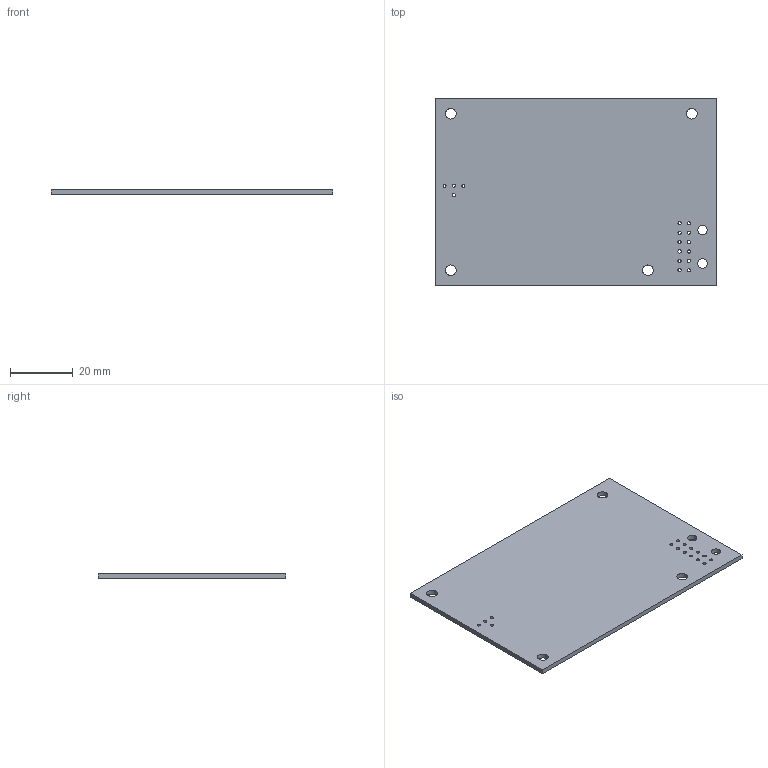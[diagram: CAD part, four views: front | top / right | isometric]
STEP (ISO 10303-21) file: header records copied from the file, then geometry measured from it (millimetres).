
FILE_DESCRIPTION(('KiCad electronic assembly'),'2;1');
FILE_NAME('PCB-PWR_board.step','2026-10-16T00:52:43',('Pcbnew'),('Kicad' ),'Open CASCADE STEP processor 7.9','KiCad to STEP converter', 'Unknown');
FILE_SCHEMA(('AUTOMOTIVE_DESIGN { 1 0 10303 214 1 1 1 1 }'));
Length unit declared in the file: millimetre
Products named in the file (2): PCB-PWR_board 1; PCB-PWR_PCB
Assembly tree (1 placements, depth 2):
  PCB-PWR_board 1
    PCB-PWR_PCB
Bounding box: 90 x 60 x 1.51 mm (x, y, z)
Volume: 8058.4 mm3; surface area: 11296.1 mm2
Topology: 1 solids, 1 shells, 28 faces, 78 edges, 52 vertices
Faces by surface type: cylinder 22, plane 6
Full cylindrical faces by diameter (mm): 0.94 x2, 1.02 x14, 3 x2, 3.4 x4
Entity records: 1051 total; most frequent: DIRECTION 182, CARTESIAN_POINT 160, ORIENTED_EDGE 156, EDGE_CURVE 78, AXIS2_PLACEMENT_3D 74, FACE_BOUND 72, EDGE_LOOP 72, VERTEX_POINT 52
